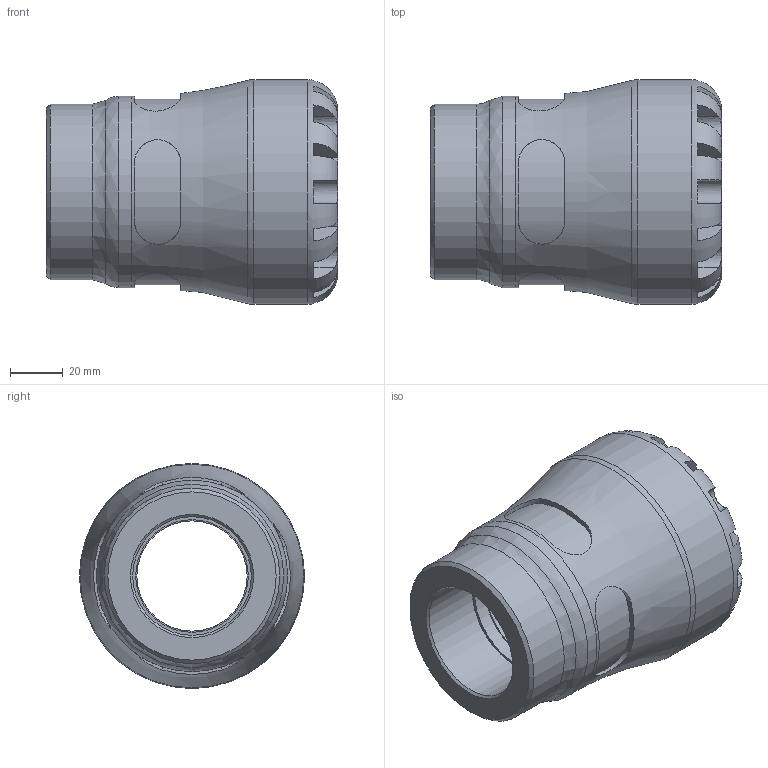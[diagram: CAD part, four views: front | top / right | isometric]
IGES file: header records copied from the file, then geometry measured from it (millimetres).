
Global section: file name: 100300050015_190300050015.ipt; native system: Autodesk Inventor 2015; preprocessor: unknown; author: KIM; date: 20170122.094958; units: millimetre
Bounding box: 110 x 85 x 85 mm (x, y, z)
Volume: 291197 mm3; surface area: 51191.4 mm2
Topology: 1 solids, 1 shells, 104 faces, 270 edges, 174 vertices
Faces by surface type: plane 61, revolution 27, cylinder 15, cone 1
Full cylindrical faces by diameter (mm): 66.3 x1, 72.25 x1, 85 x1
